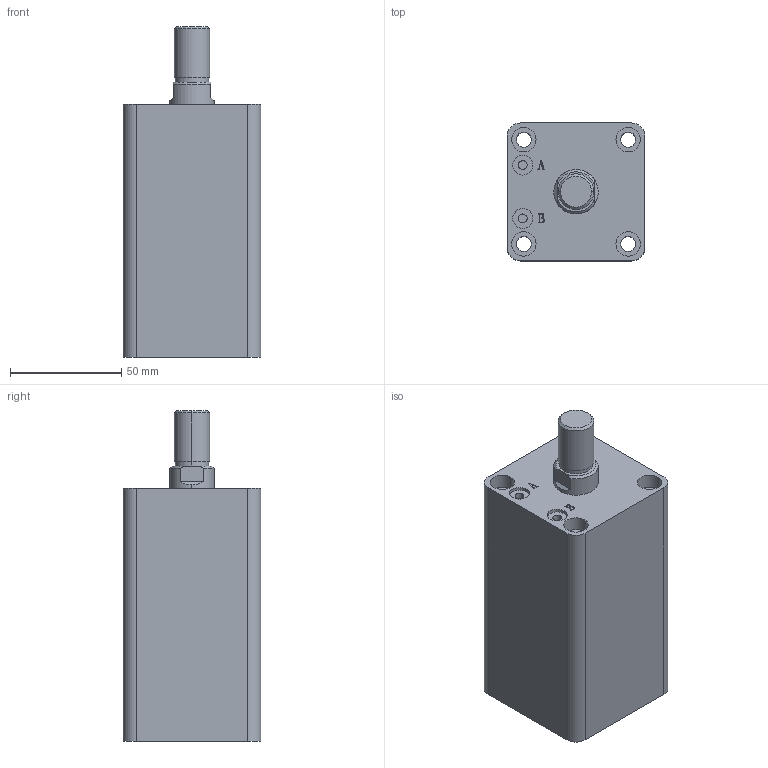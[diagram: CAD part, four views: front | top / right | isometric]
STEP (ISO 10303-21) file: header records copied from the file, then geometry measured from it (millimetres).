
FILE_DESCRIPTION (( 'STEP AP203' ), '1' );
FILE_NAME ('HTB-SDMA32-60W.STEP', '2019-10-07T11:42:36', ( '微软用户' ), ( '微软中国' ), 'SwSTEP 2.0', 'SolidWorks 2012', '' );
FILE_SCHEMA (( 'CONFIG_CONTROL_DESIGN' ));
Length unit declared in the file: millimetre
Products named in the file (3): HTB-SDMA32-60W; HTB-SDMA32-60W活塞杆; HTB-SDMA32-60掛极
Assembly tree (2 placements, depth 2):
  HTB-SDMA32-60W
    HTB-SDMA32-60掛极
    HTB-SDMA32-60W活塞杆
Bounding box: 62 x 62 x 149 mm (x, y, z)
Volume: 393110.3 mm3; surface area: 66342.3 mm2
Topology: 2 solids, 2 shells, 141 faces, 337 edges, 222 vertices
Faces by surface type: plane 67, cylinder 48, bspline 16, torus 6, cone 4
Entity records: 5176 total; most frequent: CARTESIAN_POINT 1593, ORIENTED_EDGE 674, DIRECTION 669, EDGE_CURVE 337, AXIS2_PLACEMENT_3D 242, VERTEX_POINT 222, LINE 185, VECTOR 185
